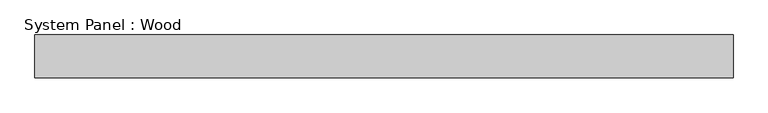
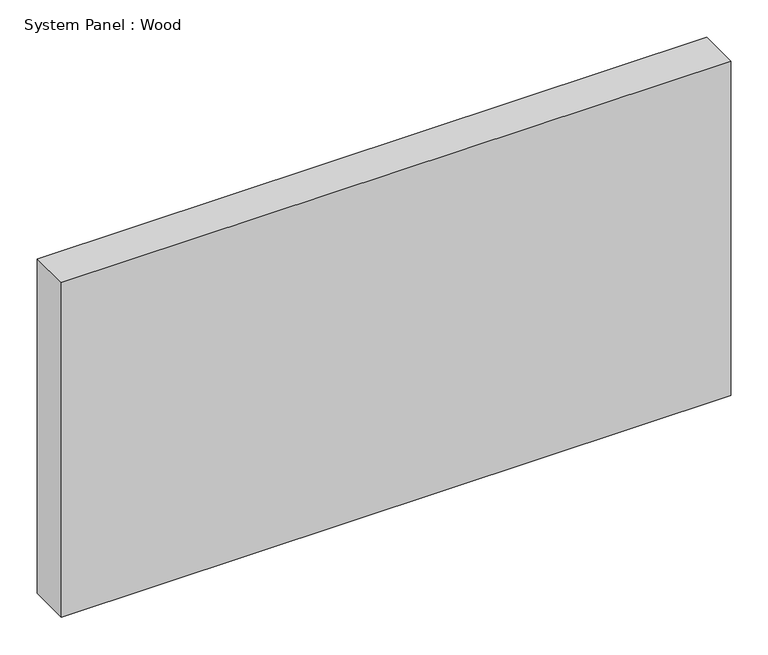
"""IFC4 building model written with IfcOpenShell, lengths in millimetres: plate geometry, System Panel : Wood."""

from ifc_helpers import new_model, si_unit, origin, origin_with_axes, place, context, project, spatial, polyline, outline, extrude, source, transform, mapped, element, save


def system_panel_wood_cbf360d3(model_context):
    return source(origin(), model_context, "Body", "SweptSolid", [
        extrude(outline(polyline([(516.255, -44.45), (-516.255, -44.45), (-516.255, 19.05), (516.255, 19.05), (516.255, -44.45)])), origin_with_axes(), (0.0, 0.0, 1.0), 546.1),
    ])


if __name__ == "__main__":
    model = new_model("IFC4")
    model_context = context("Model", 3, world=origin())
    ifc_project = project(units=[si_unit("LENGTHUNIT", "METRE", prefix="MILLI")], contexts=[model_context])
    site = spatial("IfcSite", under=ifc_project)
    building = spatial("IfcBuilding", under=site)
    placement = place(None, origin())
    system_panel_wood_shape = system_panel_wood_cbf360d3(model_context)
    element("IfcPlate", 1, ObjectType="System Panel : Wood", at=placement, inside=building, context=model_context, shape_type="MappedRepresentation", body=[
        mapped(system_panel_wood_shape, transform((0.0, 0.0, 0.0), x_axis=(1.0, 0.0, 0.0), y_axis=(0.0, 1.0, 0.0), z_axis=(0.0, 0.0, 1.0))),
    ])
    save(model, "model.ifc")
